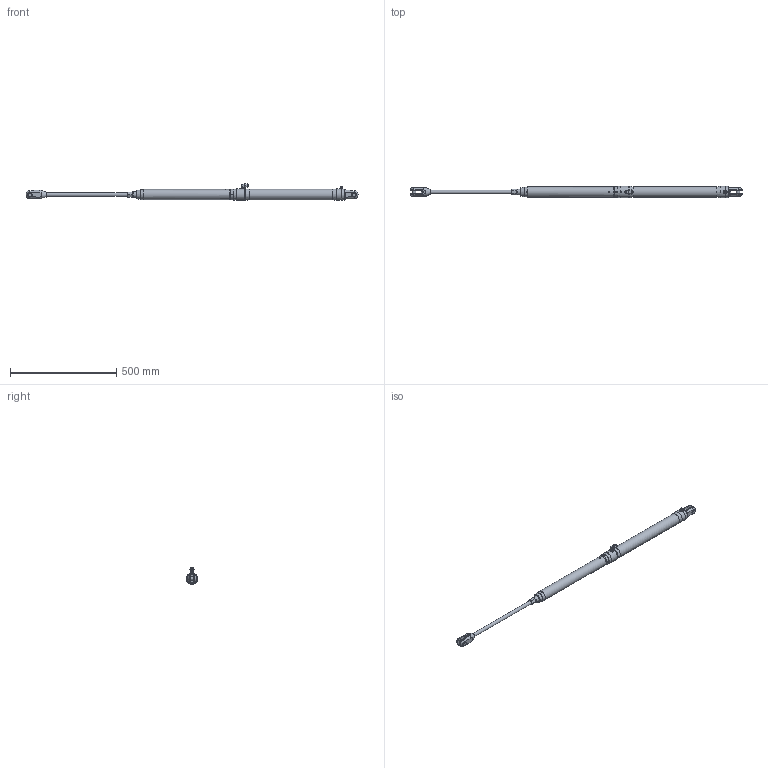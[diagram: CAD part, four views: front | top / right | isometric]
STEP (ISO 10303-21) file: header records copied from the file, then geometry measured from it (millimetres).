
FILE_DESCRIPTION(/* description */ (''),/* implementation_level */ '2;1');
FILE_NAME(/* name */ 'Q:\AA BRAND HYDRAULICS\HYDRAULICS FAMILY DIRECTORY\HYDRAULICS\CYLINDERS\MECHANICAL LOCK RAMS\ALUMINIUM - STAINLESS SINGLE ACTING (-0012 To -0150)\MSA-0012-S0375-NP-71\MSA-0012-S0375-NP-71 (Open).stp',/* time_stamp */ '2018-04-25T14:10:14+01:00',/* author */ ('Lorena'),/* organization */ (''),/* preprocessor_version */ 'ST-DEVELOPER v17',/* originating_system */ 'Autodesk Inventor 2018',/* authorisation */ '');
FILE_SCHEMA (('AUTOMOTIVE_DESIGN { 1 0 10303 214 3 1 1 }'));
Length unit declared in the file: millimetre
Products named in the file (1): MSA-0012-S0375-NP-71 (Open)
Bounding box: 1562.15 x 53.8 x 78.12 mm (x, y, z)
Volume: 2162708 mm3; surface area: 217056.1 mm2
Topology: 2 solids, 4 shells, 494 faces, 1293 edges, 843 vertices
Faces by surface type: plane 280, cone 120, cylinder 79, torus 6, bspline 5, sphere 4
Full cylindrical faces by diameter (mm): 3 x4, 3.5 x1, 4 x1, 4.2 x2, 4.4 x1, 5 x4, 7 x1, 7.728 x1, 8.728 x1, 8.8 x3, 9 x1, 9.728 x2, 10 x2, 11.11 x1, 11.8 x2, 12 x3, 13 x1, 15.1 x3, 15.88 x2, 17.5 x1, 18 x1, 19.85 x2, 27 x2, 28 x2, 31 x1, 48 x1, 50.8 x1, 53.8 x4
Entity records: 16912 total; most frequent: CARTESIAN_POINT 4377, ORIENTED_EDGE 2570, DIRECTION 2498, EDGE_CURVE 1285, AXIS2_PLACEMENT_3D 961, VERTEX_POINT 844, LINE 576, VECTOR 576
